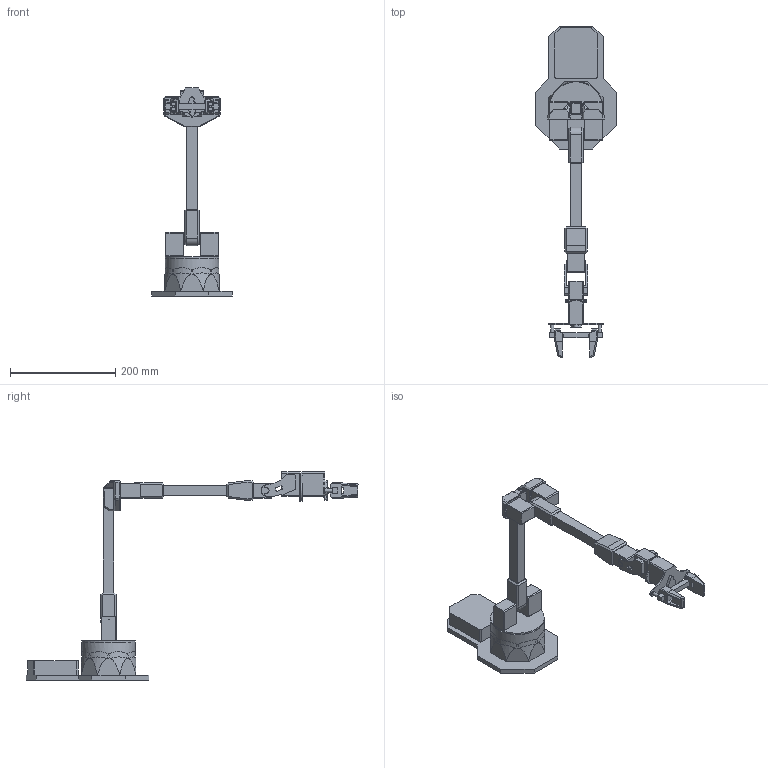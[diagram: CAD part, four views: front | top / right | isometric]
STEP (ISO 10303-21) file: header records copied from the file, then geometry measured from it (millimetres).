
FILE_DESCRIPTION(/* description */ (''),/* implementation_level */ '2;1');
FILE_NAME(/* name */ 'C:/Users/TR1/Desktop/WX-250/6 - WXA-250-M.step',/* time_stamp */ '2020-07-15T12:10:33-05:00',/* author */ (''),/* organization */ (''),/* preprocessor_version */ 'ST-DEVELOPER v18.1',/* originating_system */ 'Autodesk Translation Framework v9.3.0.1241',/* authorisation */ '');
FILE_SCHEMA (('AUTOMOTIVE_DESIGN { 1 0 10303 214 3 1 1 }'));
Length unit declared in the file: millimetre
Products named in the file (9): 6 - WXA-250-M; 430 Base v3; 430 Dual Shoulder v2; SIMPLIFIED - UA - WX-250; Fore - 6 - WX-250 v2; 430 - Wrist v3; Gripper; SRG Carriage With Finger v3; SRG v3
Assembly tree (9 placements, depth 3):
  6 - WXA-250-M
    430 Base v3
    430 Dual Shoulder v2
    SIMPLIFIED - UA - WX-250
    Fore - 6 - WX-250 v2
    430 - Wrist v3
    Gripper
      SRG Carriage With Finger v3  x2
      SRG v3
Bounding box: 153.07 x 631.15 x 395.5 mm (x, y, z)
Volume: 1737192.6 mm3; surface area: 248769.1 mm2
Topology: 8 solids, 15 shells, 731 faces, 1803 edges, 1126 vertices
Faces by surface type: plane 540, cylinder 135, bspline 25, cone 22, sphere 6, torus 3
Full cylindrical faces by diameter (mm): 2.1 x4, 3.8 x4, 4.9 x2, 6.3 x2, 12 x2, 20.5 x6, 40 x1, 62 x1, 96 x1, 102 x1, 102.181 x1
Entity records: 20805 total; most frequent: CARTESIAN_POINT 4611, ORIENTED_EDGE 3292, DIRECTION 3261, EDGE_CURVE 1646, LINE 1261, VECTOR 1261, VERTEX_POINT 1022, AXIS2_PLACEMENT_3D 1000
